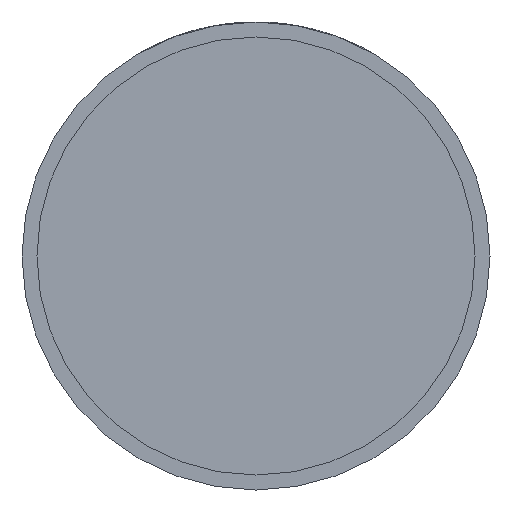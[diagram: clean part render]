
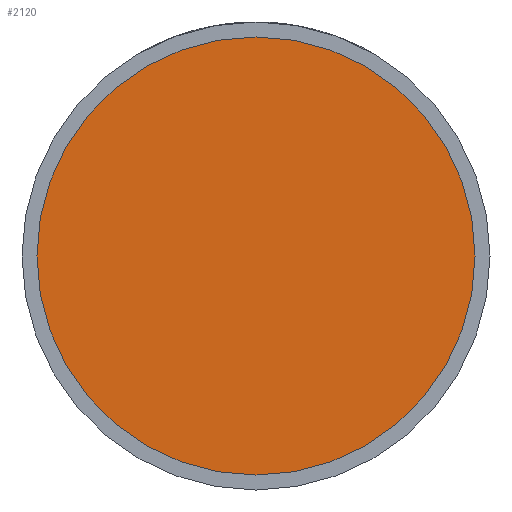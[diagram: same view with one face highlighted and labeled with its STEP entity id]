
A CAD part, front view. The second image highlights one B-rep face of the part: STEP entity #2120.
In plain terms, the highlighted planar face has unit normal (0, -1, 0).
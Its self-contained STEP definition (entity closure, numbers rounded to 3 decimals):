
#456 = FACE_OUTER_BOUND ( 'NONE', #3132, .T. ) ;
#585 = CARTESIAN_POINT ( 'NONE',  ( 0., -20., 0. ) ) ;
#837 = VERTEX_POINT ( 'NONE', #3876 ) ;
#983 = ORIENTED_EDGE ( 'NONE', *, *, #4049, .T. ) ;
#1077 = CARTESIAN_POINT ( 'NONE',  ( 0., -20., 0. ) ) ;
#1188 = DIRECTION ( 'NONE',  ( 1., 0., 0. ) ) ;
#1355 = EDGE_CURVE ( 'NONE', #837, #2592, #1619, .T. ) ;
#1356 = DIRECTION ( 'NONE',  ( 1., 0., 0. ) ) ;
#1441 = CARTESIAN_POINT ( 'NONE',  ( 33.7, -20., 0. ) ) ;
#1461 = PLANE ( 'NONE',  #2000 ) ;
#1619 = CIRCLE ( 'NONE', #2958, 33.7 ) ;
#1866 = AXIS2_PLACEMENT_3D ( 'NONE', #1077, #2005, #1356 ) ;
#2000 = AXIS2_PLACEMENT_3D ( 'NONE', #1441, #3532, #1188 ) ;
#2005 = DIRECTION ( 'NONE',  ( 0., -1., 0. ) ) ;
#2120 = ADVANCED_FACE ( 'NONE', ( #456 ), #1461, .T. ) ;
#2592 = VERTEX_POINT ( 'NONE', #4125 ) ;
#2716 = CIRCLE ( 'NONE', #1866, 33.7 ) ;
#2958 = AXIS2_PLACEMENT_3D ( 'NONE', #585, #3527, #4270 ) ;
#3132 = EDGE_LOOP ( 'NONE', ( #983, #4217 ) ) ;
#3527 = DIRECTION ( 'NONE',  ( 0., -1., 0. ) ) ;
#3532 = DIRECTION ( 'NONE',  ( 0., -1., 0. ) ) ;
#3876 = CARTESIAN_POINT ( 'NONE',  ( -33.7, -20., 0. ) ) ;
#4049 = EDGE_CURVE ( 'NONE', #2592, #837, #2716, .T. ) ;
#4125 = CARTESIAN_POINT ( 'NONE',  ( 33.7, -20., 0. ) ) ;
#4217 = ORIENTED_EDGE ( 'NONE', *, *, #1355, .T. ) ;
#4270 = DIRECTION ( 'NONE',  ( 1., 0., 0. ) ) ;
